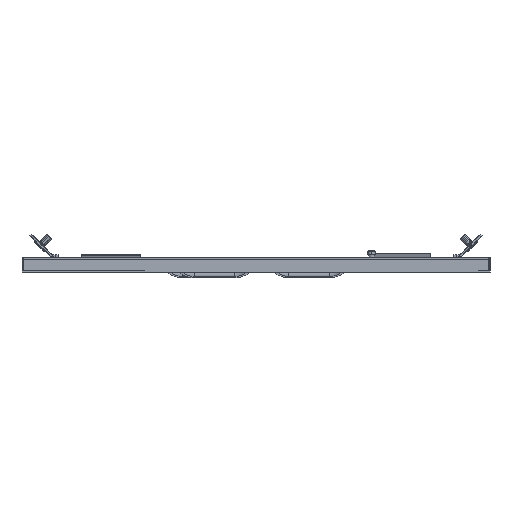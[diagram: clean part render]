
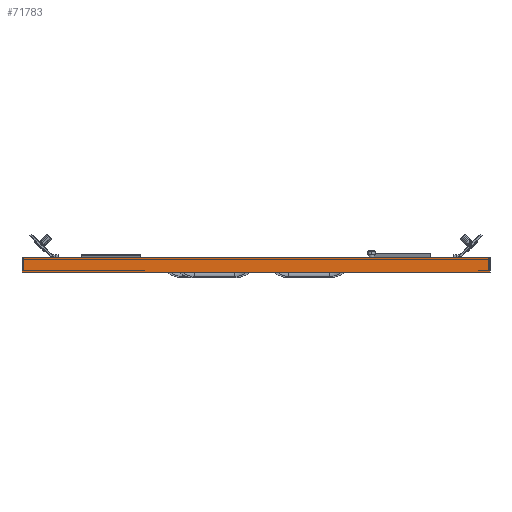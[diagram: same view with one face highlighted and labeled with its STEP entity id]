
A CAD part, front view. The second image highlights one B-rep face of the part: STEP entity #71783.
In plain terms, the highlighted planar face has unit normal (0, -1, 0).
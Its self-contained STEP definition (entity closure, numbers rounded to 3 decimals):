
#162 = LINE ( 'NONE', #1184, #36803 ) ;
#1074 = CARTESIAN_POINT ( 'NONE',  ( -196.093, -1799.458, 4.721 ) ) ;
#1184 = CARTESIAN_POINT ( 'NONE',  ( 0., -1799.458, 5.55 ) ) ;
#2774 = FACE_OUTER_BOUND ( 'NONE', #3916, .T. ) ;
#3058 = LINE ( 'NONE', #18065, #47722 ) ;
#3190 = VERTEX_POINT ( 'NONE', #92669 ) ;
#3218 = CARTESIAN_POINT ( 'NONE',  ( -197.5, -1799.458, -6.45 ) ) ;
#3916 = EDGE_LOOP ( 'NONE', ( #38995, #97871, #82165, #19107, #44695, #81274, #16570, #79702, #22966, #46840 ) ) ;
#4722 = EDGE_CURVE ( 'NONE', #11874, #9337, #3058, .T. ) ;
#4806 = PLANE ( 'NONE',  #48216 ) ;
#5429 = CARTESIAN_POINT ( 'NONE',  ( 196.093, -1799.458, 4.149 ) ) ;
#7116 = CARTESIAN_POINT ( 'NONE',  ( 196.093, -1799.458, 4.149 ) ) ;
#9337 = VERTEX_POINT ( 'NONE', #73289 ) ;
#9935 = LINE ( 'NONE', #41510, #79643 ) ;
#10907 = CARTESIAN_POINT ( 'NONE',  ( -197.5, -1799.458, 5.55 ) ) ;
#11874 = VERTEX_POINT ( 'NONE', #90838 ) ;
#12420 = CARTESIAN_POINT ( 'NONE',  ( -196.093, -1799.458, 5.55 ) ) ;
#13629 = EDGE_CURVE ( 'NONE', #11874, #32349, #65564, .T. ) ;
#13800 = VECTOR ( 'NONE', #27793, 1000. ) ;
#16570 = ORIENTED_EDGE ( 'NONE', *, *, #56369, .T. ) ;
#18065 = CARTESIAN_POINT ( 'NONE',  ( -196.093, -1799.458, -6.45 ) ) ;
#18951 = CARTESIAN_POINT ( 'NONE',  ( 196.093, -1799.458, 5.55 ) ) ;
#19107 = ORIENTED_EDGE ( 'NONE', *, *, #63806, .T. ) ;
#19120 = DIRECTION ( 'NONE',  ( 0., 0., 1. ) ) ;
#22076 = CARTESIAN_POINT ( 'NONE',  ( -197.5, -1799.458, -6.45 ) ) ;
#22966 = ORIENTED_EDGE ( 'NONE', *, *, #4722, .T. ) ;
#26786 = CARTESIAN_POINT ( 'NONE',  ( 209.582, -1799.458, 5.55 ) ) ;
#26889 = VERTEX_POINT ( 'NONE', #7116 ) ;
#27211 = CARTESIAN_POINT ( 'NONE',  ( 196.093, -1799.458, 5.188 ) ) ;
#27793 = DIRECTION ( 'NONE',  ( -1., 0., 0. ) ) ;
#30630 = EDGE_CURVE ( 'NONE', #53739, #91875, #44411, .T. ) ;
#32349 = VERTEX_POINT ( 'NONE', #89849 ) ;
#32659 = CARTESIAN_POINT ( 'NONE',  ( -196.093, -1799.458, 5.006 ) ) ;
#36632 = LINE ( 'NONE', #60927, #53762 ) ;
#36803 = VECTOR ( 'NONE', #86104, 1000. ) ;
#37922 = VERTEX_POINT ( 'NONE', #84709 ) ;
#38995 = ORIENTED_EDGE ( 'NONE', *, *, #95957, .T. ) ;
#39010 = VERTEX_POINT ( 'NONE', #18951 ) ;
#40413 = CARTESIAN_POINT ( 'NONE',  ( -196.093, -1799.458, 4.149 ) ) ;
#41510 = CARTESIAN_POINT ( 'NONE',  ( 196.093, -1799.458, 5.55 ) ) ;
#43218 = CARTESIAN_POINT ( 'NONE',  ( 196.093, -1799.458, 5.006 ) ) ;
#44411 = LINE ( 'NONE', #69201, #99148 ) ;
#44695 = ORIENTED_EDGE ( 'NONE', *, *, #62849, .T. ) ;
#46840 = ORIENTED_EDGE ( 'NONE', *, *, #48265, .F. ) ;
#47456 = VECTOR ( 'NONE', #60144, 1000. ) ;
#47581 = EDGE_CURVE ( 'NONE', #26889, #39010, #64367, .T. ) ;
#47722 = VECTOR ( 'NONE', #19120, 1000. ) ;
#48216 = AXIS2_PLACEMENT_3D ( 'NONE', #50391, #51397, #75736 ) ;
#48265 = EDGE_CURVE ( 'NONE', #87695, #9337, #36632, .T. ) ;
#49528 = LINE ( 'NONE', #26786, #13800 ) ;
#50391 = CARTESIAN_POINT ( 'NONE',  ( 0., -1799.458, 4.149 ) ) ;
#51397 = DIRECTION ( 'NONE',  ( 0., 1., 0. ) ) ;
#53195 = DIRECTION ( 'NONE',  ( -1., 0., 0. ) ) ;
#53739 = VERTEX_POINT ( 'NONE', #57103 ) ;
#53762 = VECTOR ( 'NONE', #90983, 1000. ) ;
#54730 = VECTOR ( 'NONE', #81595, 1000. ) ;
#56369 = EDGE_CURVE ( 'NONE', #39010, #32349, #162, .T. ) ;
#57103 = CARTESIAN_POINT ( 'NONE',  ( 197.5, -1799.458, -6.45 ) ) ;
#58769 = CARTESIAN_POINT ( 'NONE',  ( 196.093, -1799.458, 5.369 ) ) ;
#59528 = CARTESIAN_POINT ( 'NONE',  ( -196.093, -1799.458, 5.369 ) ) ;
#60144 = DIRECTION ( 'NONE',  ( 0., 0., -1. ) ) ;
#60304 = CARTESIAN_POINT ( 'NONE',  ( 196.093, -1799.458, 4.435 ) ) ;
#60927 = CARTESIAN_POINT ( 'NONE',  ( -209.582, -1799.458, 5.55 ) ) ;
#62849 = EDGE_CURVE ( 'NONE', #3190, #26889, #9935, .T. ) ;
#63806 = EDGE_CURVE ( 'NONE', #37922, #3190, #49528, .T. ) ;
#64367 = B_SPLINE_CURVE_WITH_KNOTS ( 'NONE', 3,
 ( #5429, #60304, #68552, #43218, #27211, #58769, #100136 ),
 .UNSPECIFIED., .F., .F.,
 ( 4, 3, 4 ),
 ( 0.005, 0.006, 0.007 ),
 .UNSPECIFIED. ) ;
#65564 = B_SPLINE_CURVE_WITH_KNOTS ( 'NONE', 3,
 ( #40413, #71979, #1074, #32659, #95760, #59528, #12420 ),
 .UNSPECIFIED., .F., .F.,
 ( 4, 3, 4 ),
 ( 0.005, 0.006, 0.007 ),
 .UNSPECIFIED. ) ;
#68552 = CARTESIAN_POINT ( 'NONE',  ( 196.093, -1799.458, 4.721 ) ) ;
#69201 = CARTESIAN_POINT ( 'NONE',  ( 0., -1799.458, -6.45 ) ) ;
#71269 = EDGE_CURVE ( 'NONE', #53739, #37922, #81068, .T. ) ;
#71783 = ADVANCED_FACE ( 'NONE', ( #2774 ), #4806, .F. ) ;
#71979 = CARTESIAN_POINT ( 'NONE',  ( -196.093, -1799.458, 4.435 ) ) ;
#73095 = DIRECTION ( 'NONE',  ( 0., 0., -1. ) ) ;
#73289 = CARTESIAN_POINT ( 'NONE',  ( -196.093, -1799.458, 5.55 ) ) ;
#75736 = DIRECTION ( 'NONE',  ( 0., 0., -1. ) ) ;
#79643 = VECTOR ( 'NONE', #73095, 1000. ) ;
#79702 = ORIENTED_EDGE ( 'NONE', *, *, #13629, .F. ) ;
#81068 = LINE ( 'NONE', #88820, #54730 ) ;
#81274 = ORIENTED_EDGE ( 'NONE', *, *, #47581, .T. ) ;
#81595 = DIRECTION ( 'NONE',  ( 0., 0., 1. ) ) ;
#82165 = ORIENTED_EDGE ( 'NONE', *, *, #71269, .T. ) ;
#84709 = CARTESIAN_POINT ( 'NONE',  ( 197.5, -1799.458, 5.55 ) ) ;
#86104 = DIRECTION ( 'NONE',  ( -1., 0., 0. ) ) ;
#87695 = VERTEX_POINT ( 'NONE', #10907 ) ;
#88820 = CARTESIAN_POINT ( 'NONE',  ( 197.5, -1799.458, 5.55 ) ) ;
#89849 = CARTESIAN_POINT ( 'NONE',  ( -196.093, -1799.458, 5.55 ) ) ;
#90838 = CARTESIAN_POINT ( 'NONE',  ( -196.093, -1799.458, 4.149 ) ) ;
#90983 = DIRECTION ( 'NONE',  ( 1., 0., 0. ) ) ;
#91875 = VERTEX_POINT ( 'NONE', #22076 ) ;
#92669 = CARTESIAN_POINT ( 'NONE',  ( 196.093, -1799.458, 5.55 ) ) ;
#95760 = CARTESIAN_POINT ( 'NONE',  ( -196.093, -1799.458, 5.188 ) ) ;
#95957 = EDGE_CURVE ( 'NONE', #87695, #91875, #97419, .T. ) ;
#97419 = LINE ( 'NONE', #3218, #47456 ) ;
#97871 = ORIENTED_EDGE ( 'NONE', *, *, #30630, .F. ) ;
#99148 = VECTOR ( 'NONE', #53195, 1000. ) ;
#100136 = CARTESIAN_POINT ( 'NONE',  ( 196.093, -1799.458, 5.55 ) ) ;
